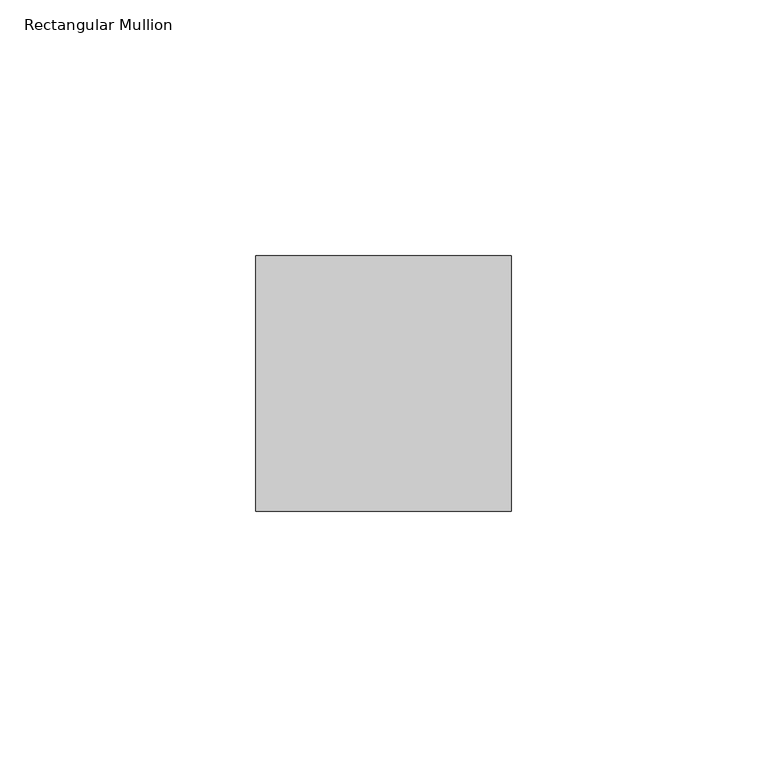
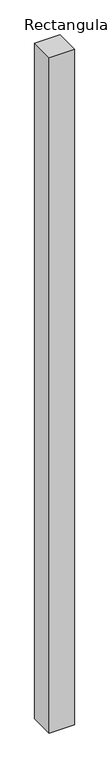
"""IFC4 building model written with IfcOpenShell, lengths in millimetres: member geometry, Rectangular Mullion : Mullion_Curtain Wall_Generic Showcase_50x50mm."""

from ifc_helpers import new_model, si_unit, frame, origin, place, context, project, spatial, polyline, outline, extrude, source, transform, mapped, element, save


def rectangular_mullion_30edb573(model_context):
    return source(origin(), model_context, "Body", "SweptSolid", [
        extrude(outline(polyline([(0.0, 50.0), (0.0, 0.0), (-50.0, 0.0), (-50.0, 50.0), (0.0, 50.0)])), frame((0.0, 0.0, -1419.45347), z_axis=(0.0, 0.0, 1.0), x_axis=(1.0, 0.0, 0.0)), (0.0, 0.0, 1.0), 1419.45347),
    ])


if __name__ == "__main__":
    model = new_model("IFC4")
    model_context = context("Model", 3, world=origin())
    ifc_project = project(units=[si_unit("LENGTHUNIT", "METRE", prefix="MILLI")], contexts=[model_context])
    site = spatial("IfcSite", under=ifc_project)
    building = spatial("IfcBuilding", under=site)
    placement = place(None, origin())
    rectangular_mullion_shape = rectangular_mullion_30edb573(model_context)
    element("IfcMember", 1, ObjectType="Rectangular Mullion : Mullion_Curtain Wall_Generic Showcase_50x50mm", at=placement, inside=building, context=model_context, shape_type="MappedRepresentation", body=[
        mapped(rectangular_mullion_shape, transform((0.0, 0.0, 0.0), x_axis=(1.0, 0.0, 0.0), y_axis=(0.0, 1.0, 0.0), z_axis=(0.0, 0.0, 1.0))),
    ])
    save(model, "model.ifc")
